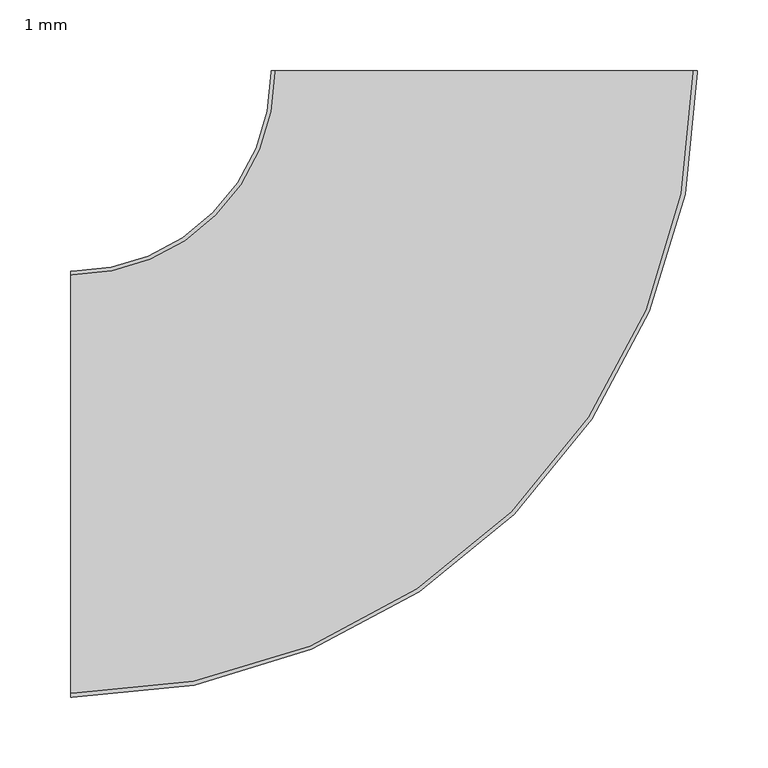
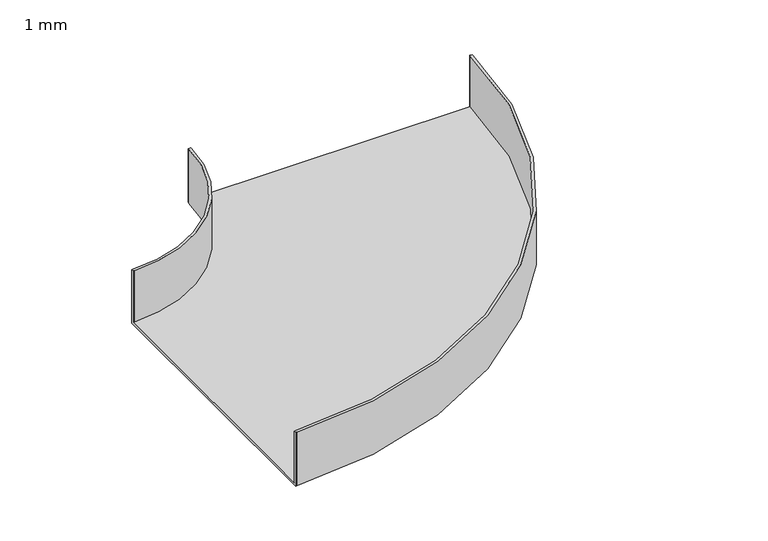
"""IFC4 building model written with IfcOpenShell, lengths in millimetres: cable carrier fitting geometry, BAKS_Kolano_koryta E90 (R140) : 1 mm."""

import ifcopenshell
import ifcopenshell.guid

model = None  # the IFC model being written
_history = None  # IfcOwnerHistory: only IFC2X3 demands one
_inside = {}  # id of a spatial element -> (the spatial element, [elements in it])
_under = {}  # id of a project, library or spatial element -> (it, [spatial elements below it])
_declared = {}  # id of a project -> (the project, [libraries it declares])
_typed = {}  # id of a type object -> (the type object, [elements of that type])
_made_of = {}  # id of a material, layer set ... -> (it, [elements and type objects made of it])


def new_model(schema):
    """Start an empty IFC model of exactly this schema.

    Asked for "IFC4X3", IfcOpenShell would pick the latest addendum, in which some entities
    have other attributes; the version numbers below select the first issue.
    IFC2X3 requires an IfcOwnerHistory on every rooted entity: one is made here for all.
    """
    global model, _history
    if schema == "IFC4X3":
        model = ifcopenshell.file(schema_version=(4, 3, 0, 0))
    else:
        model = ifcopenshell.file(schema=schema)
    _inside.clear()
    _under.clear()
    _declared.clear()
    _typed.clear()
    _made_of.clear()
    _history = None
    if model.schema == "IFC2X3":
        org = make("IfcOrganization", Name="unknown")
        user = make(
            "IfcPersonAndOrganization",
            ThePerson=make("IfcPerson", FamilyName="unknown"),
            TheOrganization=org,
        )
        app = make(
            "IfcApplication",
            ApplicationDeveloper=org,
            Version="unknown",
            ApplicationFullName="unknown",
            ApplicationIdentifier="unknown",
        )
        _history = make(
            "IfcOwnerHistory",
            OwningUser=user,
            OwningApplication=app,
            ChangeAction="ADDED",
            CreationDate=0,
        )
    return model


def make(cls, **values):
    """One entity of the class cls with the attributes given. An attribute that is None is left unset."""
    return model.create_entity(
        cls, **{name: value for name, value in values.items() if value is not None}
    )


def rooted(cls, **values):
    """An entity with a GlobalId (a new one), such as an element, a storey or a relation."""
    return make(cls, GlobalId=ifcopenshell.guid.new(), OwnerHistory=_history, **values)


def si_unit(unit_type, name, prefix=None):
    """IfcSIUnit, for example si_unit("LENGTHUNIT", "METRE", prefix="MILLI")."""
    return make("IfcSIUnit", UnitType=unit_type, Prefix=prefix, Name=name)


def assignment(units):
    """IfcUnitAssignment: the units of a project."""
    return None if units is None else make("IfcUnitAssignment", Units=units)


def point(xyz):
    """IfcCartesianPoint."""
    return None if xyz is None else make("IfcCartesianPoint", Coordinates=xyz)


def direction(xyz):
    """IfcDirection."""
    return None if xyz is None else make("IfcDirection", DirectionRatios=xyz)


def frame(location, z_axis=None, x_axis=None):
    """IfcAxis2Placement3D, a coordinate frame: its origin and axes. An axis left out is left unset."""
    return make(
        "IfcAxis2Placement3D",
        Location=point(location),
        Axis=direction(z_axis),
        RefDirection=direction(x_axis),
    )


def origin():
    """The frame at (0, 0, 0) with its axes left unset."""
    return frame((0.0, 0.0, 0.0))


def place(relative_to, where):
    """IfcLocalPlacement: puts the frame where relative to a parent placement (None: the world)."""
    return make(
        "IfcLocalPlacement", PlacementRelTo=relative_to, RelativePlacement=where
    )


def context(
    kind, dimensions, precision=None, world=None, true_north=None, identifier=None
):
    """IfcGeometricRepresentationContext, for example the 3D "Model" context."""
    return make(
        "IfcGeometricRepresentationContext",
        ContextIdentifier=identifier,
        ContextType=kind,
        CoordinateSpaceDimension=dimensions,
        Precision=precision,
        WorldCoordinateSystem=world,
        TrueNorth=true_north,
    )


def project(units=None, contexts=None):
    """IfcProject with its units and contexts."""
    return rooted(
        "IfcProject",
        Name="project",
        RepresentationContexts=contexts,
        UnitsInContext=assignment(units),
    )


def spatial(cls, under=None, at=None, **own):
    """A site, building, storey or space (cls), placed at a placement, below another one or the project."""
    s = rooted(cls, ObjectPlacement=at, **own)
    if under is not None:
        _under.setdefault(under.id(), (under, []))[1].append(s)
    return s


def polyline(points):
    """IfcPolyline through the points."""
    return make("IfcPolyline", Points=[point(p) for p in points])


def circle_curve(where, radius):
    """IfcCircle in the frame where."""
    return make("IfcCircle", Position=where, Radius=radius)


def shape(context_of_items, identifier, shape_type, items):
    """IfcShapeRepresentation: the items that make up one representation, for example the "Body"."""
    return make(
        "IfcShapeRepresentation",
        ContextOfItems=context_of_items,
        RepresentationIdentifier=identifier,
        RepresentationType=shape_type,
        Items=items,
    )


def source(mapping_origin, context_of_items, identifier, shape_type, items):
    """IfcRepresentationMap: a shape defined once, which mapped items show again and again."""
    return make(
        "IfcRepresentationMap",
        MappingOrigin=mapping_origin,
        MappedRepresentation=shape(context_of_items, identifier, shape_type, items),
    )


def transform(
    local_origin,
    x_axis=None,
    y_axis=None,
    z_axis=None,
    scale=None,
    scale2=None,
    scale3=None,
    uniform=True,
):
    """IfcCartesianTransformationOperator3D, or its non-uniform kind. x_axis, y_axis, z_axis: its Axis1, 2, 3."""
    if uniform:
        return make(
            "IfcCartesianTransformationOperator3D",
            Axis1=direction(x_axis),
            Axis2=direction(y_axis),
            LocalOrigin=point(local_origin),
            Scale=scale,
            Axis3=direction(z_axis),
        )
    return make(
        "IfcCartesianTransformationOperator3DnonUniform",
        Axis1=direction(x_axis),
        Axis2=direction(y_axis),
        LocalOrigin=point(local_origin),
        Scale=scale,
        Axis3=direction(z_axis),
        Scale2=scale2,
        Scale3=scale3,
    )


def mapped(mapping_source, mapping_target):
    """IfcMappedItem: shows the shape of a source again, moved by a transform."""
    return make(
        "IfcMappedItem", MappingSource=mapping_source, MappingTarget=mapping_target
    )


def made_of(thing, what):
    """Note that an element or type object is made of a material, layer set ...; save() writes the relation."""
    if what is not None:
        _made_of.setdefault(what.id(), (what, []))[1].append(thing)
    return thing


def element(
    cls,
    number,
    at=None,
    inside=None,
    cuts=None,
    type_object=None,
    material=None,
    context=None,
    identifier="Body",
    shape_type=None,
    held_by="IfcProductDefinitionShape",
    body=None,
    shapes=None,
    **own,
):
    """One element of the class cls, such as IfcWall. Its Tag is "e" and its number.

    at: its placement. inside: the storey or other place that contains it. cuts: it is an
    opening in that element (IfcRelVoidsElement). A single representation is given by context,
    identifier, shape_type and body (its items); several are given by shapes. held_by: the class
    of the entity that holds the representations. save() writes the other relations.
    """
    e = rooted(cls, Tag="e%d" % number, ObjectPlacement=at, **own)
    if body is not None:
        shapes = [shape(context, identifier, shape_type, body)]
    if shapes is not None:
        e.Representation = make(held_by, Representations=shapes)
    if inside is not None:
        _inside.setdefault(inside.id(), (inside, []))[1].append(e)
    if cuts is not None:
        rooted(
            "IfcRelVoidsElement", RelatingBuildingElement=cuts, RelatedOpeningElement=e
        )
    if type_object is not None:
        _typed.setdefault(type_object.id(), (type_object, []))[1].append(e)
    return made_of(e, material)


def aggregate(whole, parts):
    """IfcRelAggregates: a whole, such as a stair, and the parts it consists of."""
    return rooted("IfcRelAggregates", RelatingObject=whole, RelatedObjects=parts)


def save(model, path):
    """Write the relations noted so far, then the file.

    IfcRelAggregates (storeys below a building ...), IfcRelContainedInSpatialStructure (elements
    in a storey), IfcRelDefinesByType, IfcRelAssociatesMaterial and IfcRelDeclares: one each for
    every whole, place, type object, material and project.
    """
    for whole, parts in _under.values():
        aggregate(whole, parts)
    for where, things in _inside.values():
        rooted(
            "IfcRelContainedInSpatialStructure",
            RelatedElements=things,
            RelatingStructure=where,
        )
    for kind, things in _typed.values():
        rooted("IfcRelDefinesByType", RelatedObjects=things, RelatingType=kind)
    for what, things in _made_of.values():
        rooted("IfcRelAssociatesMaterial", RelatedObjects=things, RelatingMaterial=what)
    for by, libraries in _declared.values():
        rooted("IfcRelDeclares", RelatingContext=by, RelatedDefinitions=libraries)
    model.write(path)


def plane_surface(at):
    """IfcPlane: the flat surface through the origin of the frame at, square to its z axis."""
    return make("IfcPlane", Position=at)


def cylinder_surface(at, radius):
    """IfcCylindricalSurface: all points at the distance radius from the z axis of the frame at."""
    return make("IfcCylindricalSurface", Position=at, Radius=radius)


def revolved_surface(curve, axis_point, axis_direction):
    """IfcSurfaceOfRevolution: the curve turned about the line through axis_point along axis_direction."""
    return make(
        "IfcSurfaceOfRevolution",
        SweptCurve=make("IfcArbitraryOpenProfileDef", ProfileType="CURVE", Curve=curve),
        AxisPosition=make("IfcAxis1Placement", Location=point(axis_point), Axis=direction(axis_direction)),
    )


def advanced_brep(points, edges, surfaces, faces):
    """IfcAdvancedBrep: a solid bounded by faces that lie on surfaces and meet in shared edges.

    An edge is (start, end): straight between two places in points (the first is 0);
    or (start, end, curve); or (start, end, curve, False) where it runs against its curve.
    A face is (place in surfaces, loops), or (place, loops, False) where it looks against
    its surface's normal. A loop lists edges by number (the first is 1), with a minus sign
    where the edge is run from its end to its start. The first loop is the outer one.
    """
    corners = [point(p) for p in points]
    vertices = [make("IfcVertexPoint", VertexGeometry=c) for c in corners]
    made = []
    for start, end, *more in edges:
        made.append(
            make(
                "IfcEdgeCurve",
                EdgeStart=vertices[start],
                EdgeEnd=vertices[end],
                EdgeGeometry=more[0] if more else make("IfcPolyline", Points=[corners[start], corners[end]]),
                SameSense=more[1] if len(more) > 1 else True,
            )
        )
    hull = []
    for where, loops, *sense in faces:
        bounds = []
        for j, loop in enumerate(loops):
            ring = [make("IfcOrientedEdge", EdgeElement=made[abs(k) - 1], Orientation=k > 0) for k in loop]
            bounds.append(
                make(
                    "IfcFaceOuterBound" if j == 0 else "IfcFaceBound",
                    Bound=make("IfcEdgeLoop", EdgeList=ring),
                    Orientation=True,
                )
            )
        hull.append(make("IfcAdvancedFace", Bounds=bounds, FaceSurface=surfaces[where], SameSense=sense[0] if sense else True))
    return make("IfcAdvancedBrep", Outer=make("IfcClosedShell", CfsFaces=hull))


def cable_carrier_fitting_1_mm_ffd8b238(model_context):
    return source(origin(), model_context, "Body", "AdvancedBrep", [
        advanced_brep(
        [(-291.0, -150.0, -30.0), (-291.0, -150.0, 30.0), (-291.0, -147.46, 30.0), (-291.0, -147.46, -27.46), (-291.0, 147.46, -27.46), (-291.0, 147.46, 30.0), (-291.0, 150.0, 30.0), (-291.0, 150.0, -30.0), (150.0, 291.0, -30.0), (-150.0, 291.0, -30.0), (-150.0, 291.0, 30.0), (-147.46, 291.0, 30.0), (-147.46, 291.0, -27.46), (147.46, 291.0, -27.46), (147.46, 291.0, 30.0), (150.0, 291.0, 30.0), (-290.0, -150.0, -30.0), (-290.0, -150.0, 30.0), (150.0, 290.0, 30.0), (147.46, 290.0, 30.0), (-290.0, -147.46, 30.0), (-290.0, -147.46, -27.46), (147.46, 290.0, -27.46), (-147.46, 290.0, -27.46), (-290.0, 147.46, -27.46), (-290.0, 147.46, 30.0), (-147.46, 290.0, 30.0), (-150.0, 290.0, 30.0), (-290.0, 150.0, 30.0), (-290.0, 150.0, -30.0), (-150.0, 290.0, -30.0), (150.0, 290.0, -30.0)],
        [
            (0, 1),
            (1, 2),
            (2, 3),
            (3, 4),
            (4, 5),
            (5, 6),
            (6, 7),
            (7, 0),
            (8, 9),
            (9, 10),
            (10, 11),
            (11, 12),
            (12, 13),
            (13, 14),
            (14, 15),
            (15, 8),
            (0, 16),
            (16, 17),
            (17, 1),
            (17, 18, circle_curve(frame((-290.0, 290.0, 30.0), z_axis=(0.0, 0.0, 1.0), x_axis=(0.0, -1.0, 0.0)), 440.0)),
            (18, 15),
            (14, 19),
            (19, 20, circle_curve(frame((-290.0, 290.0, 30.0), z_axis=(0.0, 0.0, -1.0), x_axis=(0.0, -1.0, 0.0)), 437.46)),
            (20, 2),
            (20, 21),
            (21, 3),
            (21, 22, circle_curve(frame((-290.0, 290.0, -27.46), z_axis=(0.0, 0.0, 1.0), x_axis=(0.0, -1.0, 0.0)), 437.46)),
            (22, 13),
            (12, 23),
            (23, 24, circle_curve(frame((-290.0, 290.0, -27.46), z_axis=(0.0, 0.0, -1.0), x_axis=(0.0, -1.0, 0.0)), 142.54)),
            (24, 4),
            (24, 25),
            (25, 5),
            (25, 26, circle_curve(frame((-290.0, 290.0, 30.0), z_axis=(0.0, 0.0, 1.0), x_axis=(0.0, -1.0, 0.0)), 142.54)),
            (26, 11),
            (10, 27),
            (27, 28, circle_curve(frame((-290.0, 290.0, 30.0), z_axis=(0.0, 0.0, -1.0), x_axis=(0.0, -1.0, 0.0)), 140.0)),
            (28, 6),
            (28, 29),
            (29, 7),
            (29, 30, circle_curve(frame((-290.0, 290.0, -30.0), z_axis=(0.0, 0.0, 1.0), x_axis=(0.0, -1.0, 0.0)), 140.0)),
            (30, 9),
            (8, 31),
            (31, 16, circle_curve(frame((-290.0, 290.0, -30.0), z_axis=(0.0, 0.0, -1.0), x_axis=(0.0, -1.0, 0.0)), 440.0)),
            (31, 18),
            (19, 22),
            (23, 26),
            (27, 30),
        ],
        [
            plane_surface(frame((-291.0, 0.0, 0.0), z_axis=(-1.0, 0.0, 0.0), x_axis=(0.0, 0.0, 1.0))),
            plane_surface(frame((0.0, 291.0, 0.0), z_axis=(0.0, 1.0, 0.0), x_axis=(0.0, 0.0, 1.0))),
            plane_surface(frame((-291.0, -150.0, -30.0), z_axis=(0.0, -1.0, 0.0), x_axis=(1.0, 0.0, 0.0))),
            plane_surface(frame((-291.0, -150.0, 30.0), z_axis=(0.0, 0.0, 1.0), x_axis=(1.0, 0.0, 0.0))),
            plane_surface(frame((-291.0, -147.46, 30.0), z_axis=(0.0, 1.0, 0.0), x_axis=(1.0, 0.0, 0.0))),
            plane_surface(frame((-291.0, -147.46, -27.46), z_axis=(0.0, 0.0, 1.0), x_axis=(1.0, 0.0, 0.0))),
            plane_surface(frame((-291.0, 147.46, -27.46), z_axis=(0.0, -1.0, 0.0), x_axis=(1.0, 0.0, 0.0))),
            plane_surface(frame((-291.0, 147.46, 30.0), z_axis=(0.0, 0.0, 1.0), x_axis=(1.0, 0.0, 0.0))),
            plane_surface(frame((-291.0, 150.0, 30.0), z_axis=(0.0, 1.0, 0.0), x_axis=(1.0, 0.0, 0.0))),
            plane_surface(frame((-291.0, 150.0, -30.0), z_axis=(0.0, 0.0, -1.0), x_axis=(1.0, 0.0, 0.0))),
            cylinder_surface(frame((-290.0, 290.0, 0.0), z_axis=(0.0, 0.0, 1.0), x_axis=(0.0, -1.0, 0.0)), 440.0),
            revolved_surface(polyline([(-290.0, -147.45999999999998, 30.0), (-290.0, -147.45999999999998, -27.46)]), (-290.0, 290.0, 0.0), (0.0, 0.0, 1.0)),
            cylinder_surface(frame((-290.0, 290.0, 0.0), z_axis=(0.0, 0.0, 1.0), x_axis=(0.0, -1.0, 0.0)), 142.54),
            revolved_surface(polyline([(-290.0, 150.0, 30.0), (-290.0, 150.0, -30.0)]), (-290.0, 290.0, 0.0), (0.0, 0.0, 1.0)),
            plane_surface(frame((150.0, 290.0, -30.0), z_axis=(1.0, 0.0, 0.0), x_axis=(0.0, 1.0, 0.0))),
            plane_surface(frame((147.46, 290.0, 30.0), z_axis=(-1.0, 0.0, 0.0), x_axis=(0.0, 1.0, 0.0))),
            plane_surface(frame((-147.46, 290.0, -27.46), z_axis=(1.0, 0.0, 0.0), x_axis=(0.0, 1.0, 0.0))),
            plane_surface(frame((-150.0, 290.0, 30.0), z_axis=(-1.0, 0.0, 0.0), x_axis=(0.0, 1.0, 0.0))),
        ],
        [
            (0, [[1, 2, 3, 4, 5, 6, 7, 8]]),
            (1, [[9, 10, 11, 12, 13, 14, 15, 16]]),
            (2, [[-1, 17, 18, 19]]),
            (3, [[-2, -19, 20, 21, -15, 22, 23, 24]]),
            (4, [[-3, -24, 25, 26]]),
            (5, [[-4, -26, 27, 28, -13, 29, 30, 31]]),
            (6, [[-5, -31, 32, 33]]),
            (7, [[-6, -33, 34, 35, -11, 36, 37, 38]]),
            (8, [[-7, -38, 39, 40]]),
            (9, [[-8, -40, 41, 42, -9, 43, 44, -17]]),
            (10, [[-20, -18, -44, 45]]),
            (11, [[-27, -25, -23, 46]]),
            (12, [[-34, -32, -30, 47]]),
            (13, [[-41, -39, -37, 48]]),
            (14, [[-45, -43, -16, -21]]),
            (15, [[-46, -22, -14, -28]]),
            (16, [[-47, -29, -12, -35]]),
            (17, [[-48, -36, -10, -42]]),
        ],
    ),
    ])


if __name__ == "__main__":
    model = new_model("IFC4")
    model_context = context("Model", 3, world=origin())
    ifc_project = project(units=[si_unit("LENGTHUNIT", "METRE", prefix="MILLI")], contexts=[model_context])
    site = spatial("IfcSite", under=ifc_project)
    building = spatial("IfcBuilding", under=site)
    placement = place(None, origin())
    cable_carrier_fitting_1_mm_shape = cable_carrier_fitting_1_mm_ffd8b238(model_context)
    element("IfcCableCarrierFitting", 1, ObjectType="BAKS_Kolano_koryta E90 (R140) : 1 mm", at=placement, inside=building, context=model_context, shape_type="MappedRepresentation", body=[
        mapped(cable_carrier_fitting_1_mm_shape, transform((0.0, 0.0, 0.0), x_axis=(1.0, 0.0, 0.0), y_axis=(0.0, 1.0, 0.0), z_axis=(0.0, 0.0, 1.0))),
    ])
    save(model, "model.ifc")
